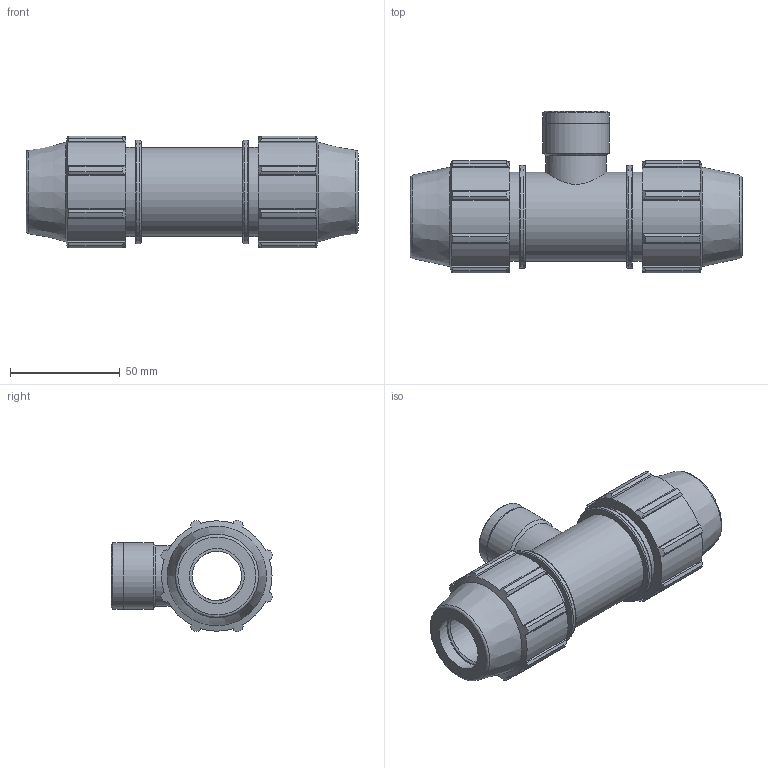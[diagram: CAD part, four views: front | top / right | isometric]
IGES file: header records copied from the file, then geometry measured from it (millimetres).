
Global section: file name: 071400025007_181400025007_0714060250070A.ipt; native system: Autodesk Inventor 2015; preprocessor: unknown; author: KIM; date: 20170606.172145; units: millimetre
Bounding box: 151 x 73.41 x 50.81 mm (x, y, z)
Volume: 170823.5 mm3; surface area: 44185.4 mm2
Topology: 1 solids, 1 shells, 157 faces, 443 edges, 299 vertices
Faces by surface type: plane 79, cylinder 40, cone 23, revolution 15
Full cylindrical faces by diameter (mm): 27.735 x1, 30.146 x2, 40.5 x3, 46.98 x2
